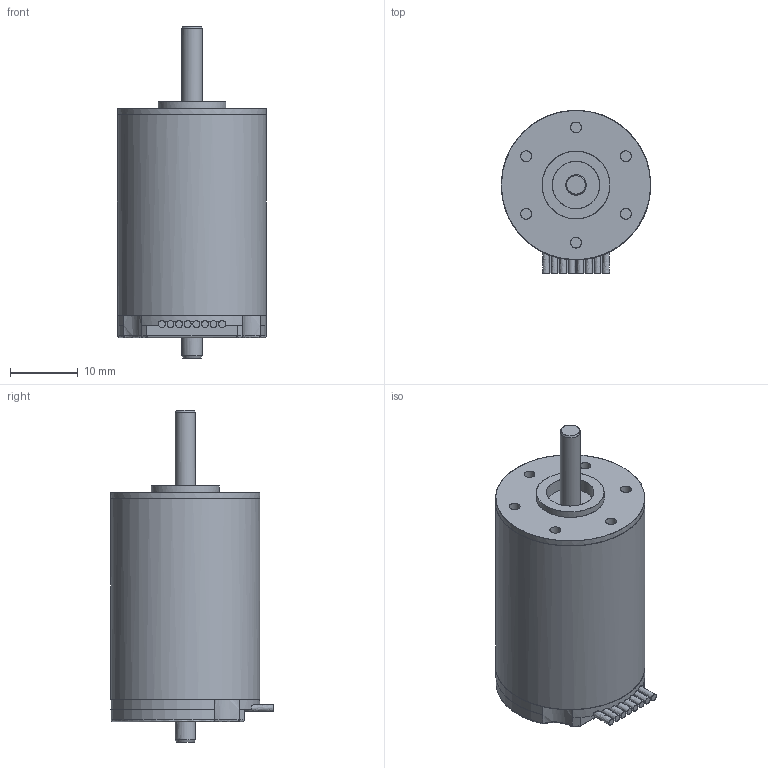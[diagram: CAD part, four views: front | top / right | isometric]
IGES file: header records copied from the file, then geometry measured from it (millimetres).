
Global section: file name: R:\a_public\Organisationsentwicklung\Aufgaben\CAD_Modelle_Vertrieb\Motor\22xx_BX4\2232.BX4.igs; native system: NX V7.5; preprocessor: SIEMENS PLM Software NX 7.5; author: DR. FRITZ FAULHABER GmbH & Co. KG; organization: DR. FRITZ FAULHABER GmbH & Co. KG; date: 20121031.092852; units: millimetre
Bounding box: 22 x 24 x 49 mm (x, y, z)
Surface area: 3519.9 mm2 (no closed solid volume)
Topology: 0 solids, 0 shells, 102 faces, 768 edges, 738 vertices
Faces by surface type: bspline 102
